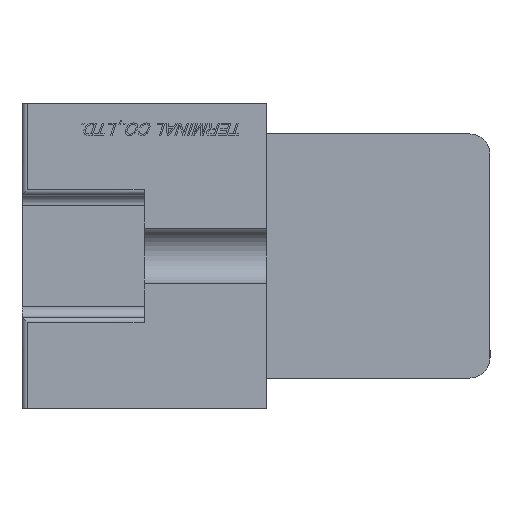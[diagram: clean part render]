
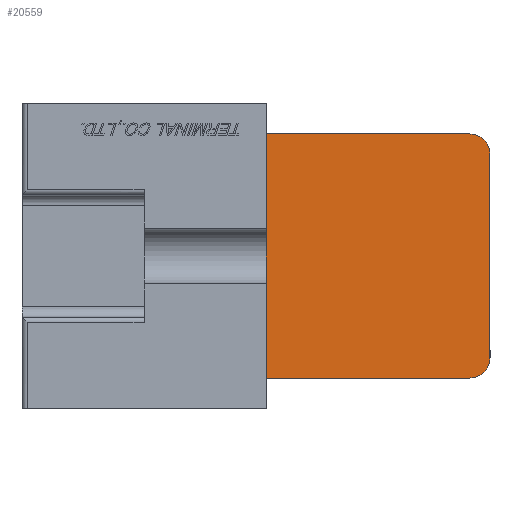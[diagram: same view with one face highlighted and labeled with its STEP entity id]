
A CAD part, left-side view. The second image highlights one B-rep face of the part: STEP entity #20559.
In plain terms, the highlighted planar face has unit normal (-1, 0, 0).
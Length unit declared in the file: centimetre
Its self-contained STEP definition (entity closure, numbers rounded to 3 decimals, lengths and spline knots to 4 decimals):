
#479=CIRCLE('',#38798,0.2);
#481=CIRCLE('',#38802,0.2);
#2466=VERTEX_POINT('',#28905);
#2467=VERTEX_POINT('',#28907);
#2478=VERTEX_POINT('',#28998);
#2479=VERTEX_POINT('',#29002);
#2524=VERTEX_POINT('',#29237);
#2525=VERTEX_POINT('',#29239);
#4746=VECTOR('',#22893,1.);
#4790=VECTOR('',#23034,1.);
#4791=VECTOR('',#23035,1.);
#4792=VECTOR('',#23036,1.);
#6299=LINE('',#28997,#4746);
#6343=LINE('',#29236,#4790);
#6344=LINE('',#29238,#4791);
#6345=LINE('',#29240,#4792);
#7953=EDGE_CURVE('',#2466,#2467,#479,.T.);
#7966=EDGE_CURVE('',#2478,#2467,#6299,.T.);
#7968=EDGE_CURVE('',#2478,#2479,#481,.T.);
#8044=EDGE_CURVE('',#2524,#2466,#6343,.T.);
#8045=EDGE_CURVE('',#2525,#2524,#6344,.T.);
#8046=EDGE_CURVE('',#2525,#2479,#6345,.T.);
#11835=ORIENTED_EDGE('',*,*,#7953,.F.);
#11836=ORIENTED_EDGE('',*,*,#8044,.F.);
#11837=ORIENTED_EDGE('',*,*,#8045,.F.);
#11838=ORIENTED_EDGE('',*,*,#8046,.T.);
#11839=ORIENTED_EDGE('',*,*,#7968,.F.);
#11840=ORIENTED_EDGE('',*,*,#7966,.T.);
#17345=EDGE_LOOP('',(#11835,#11836,#11837,#11838,#11839,#11840));
#18964=FACE_BOUND('',#17345,.T.);
#20559=ADVANCED_FACE('',(#18964),#21805,.T.);
#21805=PLANE('',#38857);
#22880=DIRECTION('',(1.,0.,0.));
#22881=DIRECTION('',(0.,-0.141,0.141));
#22893=DIRECTION('',(0.,0.,1.));
#22897=DIRECTION('',(1.,0.,0.));
#22898=DIRECTION('',(0.,-0.141,-0.141));
#23033=DIRECTION('',(-1.,0.,0.));
#23034=DIRECTION('',(0.,-1.,0.));
#23035=DIRECTION('',(0.,0.,1.));
#23036=DIRECTION('',(0.,-1.,0.));
#28905=CARTESIAN_POINT('',(-4.15,-0.695,1.2));
#28906=CARTESIAN_POINT('',(-4.15,-0.695,1.));
#28907=CARTESIAN_POINT('',(-4.15,-0.895,1.));
#28997=CARTESIAN_POINT('',(-4.15,-0.895,-1.2));
#28998=CARTESIAN_POINT('',(-4.15,-0.895,-1.));
#29001=CARTESIAN_POINT('',(-4.15,-0.695,-1.));
#29002=CARTESIAN_POINT('',(-4.15,-0.695,-1.2));
#29235=CARTESIAN_POINT('',(-4.15,1.305,0.));
#29236=CARTESIAN_POINT('',(-4.15,1.305,1.2));
#29237=CARTESIAN_POINT('',(-4.15,1.305,1.2));
#29238=CARTESIAN_POINT('',(-4.15,1.305,0.));
#29239=CARTESIAN_POINT('',(-4.15,1.305,-1.2));
#29240=CARTESIAN_POINT('',(-4.15,1.305,-1.2));
#38798=AXIS2_PLACEMENT_3D('',#28906,#22880,#22881);
#38802=AXIS2_PLACEMENT_3D('',#29001,#22897,#22898);
#38857=AXIS2_PLACEMENT_3D('',#29235,#23033,$);
